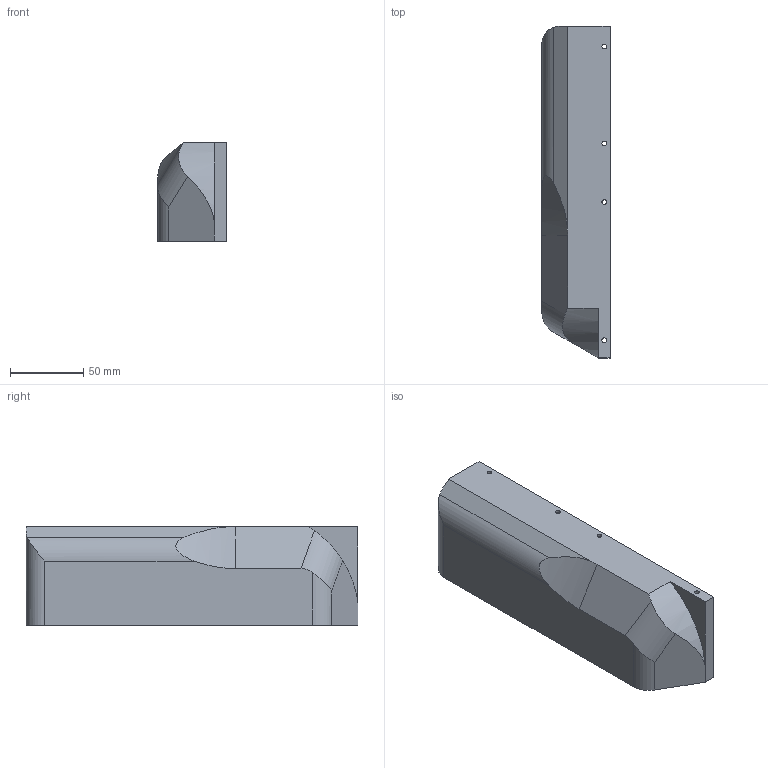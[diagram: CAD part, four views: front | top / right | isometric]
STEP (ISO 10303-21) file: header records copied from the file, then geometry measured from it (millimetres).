
FILE_DESCRIPTION(/* description */ (''),/* implementation_level */ '2;1');
FILE_NAME(/* name */ '1-09-1 Right.step',/* time_stamp */ '2025-05-10T21:33:54+02:00',/* author */ (''),/* organization */ (''),/* preprocessor_version */ 'ST-DEVELOPER v20.1',/* originating_system */ 'Autodesk Translation Framework v14.4.0.0',/* authorisation */ '');
FILE_SCHEMA (('AUTOMOTIVE_DESIGN { 1 0 10303 214 3 1 1 }'));
Length unit declared in the file: millimetre
Products named in the file (1): 1-09-1 Right
Bounding box: 46.5 x 226 x 67 mm (x, y, z)
Volume: 85372.7 mm3; surface area: 64255.7 mm2
Topology: 1 solids, 1 shells, 144 faces, 409 edges, 266 vertices
Faces by surface type: plane 118, cylinder 23, cone 2, bspline 1
Full cylindrical faces by diameter (mm): 3.2 x4, 4.1 x5, 6 x4
Entity records: 4781 total; most frequent: CARTESIAN_POINT 934, ORIENTED_EDGE 818, DIRECTION 736, EDGE_CURVE 409, LINE 346, VECTOR 346, VERTEX_POINT 266, AXIS2_PLACEMENT_3D 195
